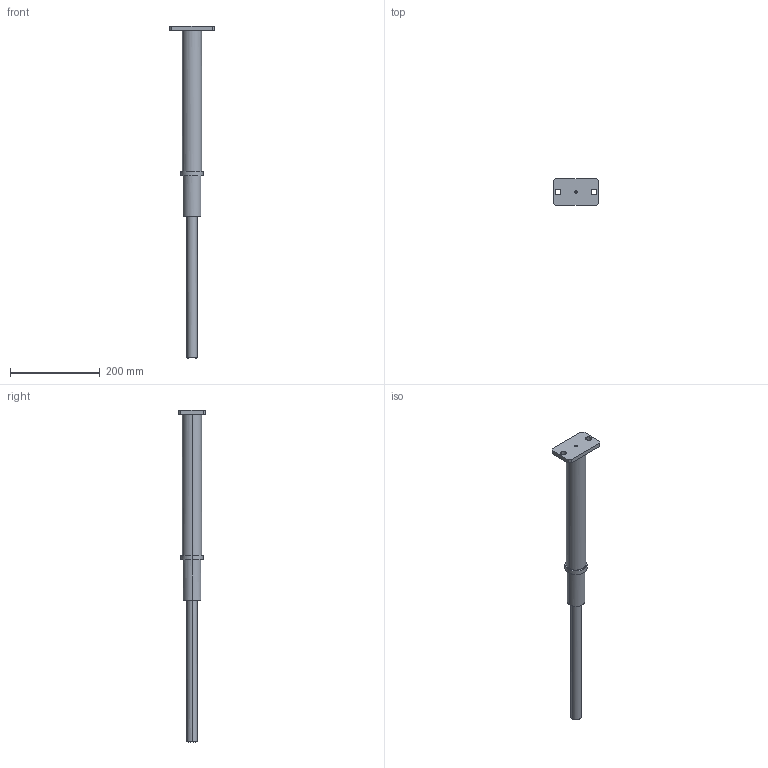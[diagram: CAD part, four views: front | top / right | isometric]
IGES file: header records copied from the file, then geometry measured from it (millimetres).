
Global section: file name: E:\UnigraphicsGraphicData\MISUMI_PRESS-PARTS\IGES\3d_papgu300-90_01679_r00.igs; native system: NX V5.0; preprocessor: UGS NX IGES V5.0; author: MISUMI; date: 20110105.162223; units: millimetre
Bounding box: 100 x 60 x 738 mm (x, y, z)
Surface area: 96796.9 mm2 (no closed solid volume)
Topology: 0 solids, 0 shells, 30 faces, 264 edges, 264 vertices
Faces by surface type: bspline 30
